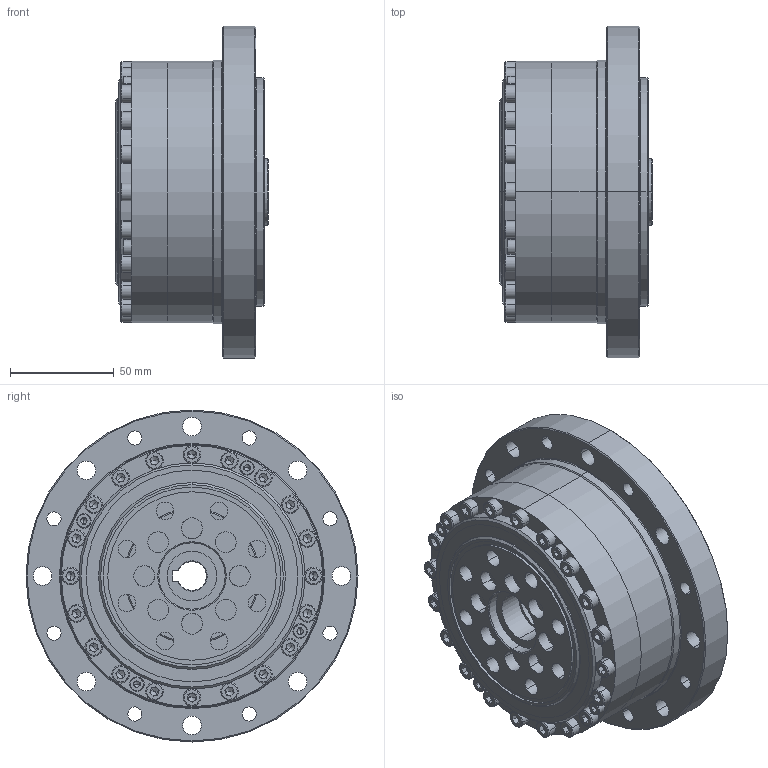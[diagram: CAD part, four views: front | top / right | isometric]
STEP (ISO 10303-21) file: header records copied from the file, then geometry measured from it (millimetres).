
FILE_DESCRIPTION (( 'STEP AP203' ), '1' );
FILE_NAME ('LCS-40-XXX-C-II.STEP', '2017-04-13T07:00:37', ( 'Windows 蚚誧' ), ( 'Users' ), 'SwSTEP 2.0', 'SolidWorks 2013', '' );
FILE_SCHEMA (( 'CONFIG_CONTROL_DESIGN' ));
Length unit declared in the file: millimetre
Products named in the file (18): DB-40-II; LCS-40-XXX-P05-II; 粣噤32; LCS-40-XXX-P04-II; RZC-40内外圈+钢球; 15Z-901026; RZC-40悵厥殤; socket head cap screw_din_内六角圆柱头螺钉M4 x 16; 柔性轴承RZC-40; socket head cap screw_din_内六角圆柱头螺钉M5 x 25; 疏楷汜ん40-II; LJ-40G-II; 内六角圆柱头螺钉M12 x 25_DIN 912 M12 x 25 --- 25N; SZ-40-II; LCS-40-XXX-P01-II; LCS-40-XXX-C-II; LCS-40-XXX-P03-II; LCS-40-XXX-P02-II
Assembly tree (46 placements, depth 4):
  LCS-40-XXX-C-II
    LCS-40-XXX-P01-II
    LCS-40-XXX-P02-II
    LCS-40-XXX-P05-II
    LCS-40-XXX-P04-II
    15Z-901026
    socket head cap screw_din_内六角圆柱头螺钉M4 x 16  x4
    socket head cap screw_din_内六角圆柱头螺钉M5 x 25  x20
    疏楷汜ん40-II
      LJ-40G-II
      SZ-40-II
      LCS-40-XXX-P03-II
      DB-40-II
      粣噤32
      柔性轴承RZC-40
        RZC-40内外圈+钢球
        RZC-40悵厥殤
    内六角圆柱头螺钉M12 x 25_DIN 912 M12 x 25 --- 25N  x8
Bounding box: 73.5 x 160 x 160 mm (x, y, z)
Volume: 686552.9 mm3; surface area: 308052.1 mm2
Topology: 69 solids, 69 shells, 1632 faces, 3834 edges, 2311 vertices
Faces by surface type: plane 638, cylinder 533, cone 247, torus 168, sphere 46
Entity records: 27991 total; most frequent: DIRECTION 4951, CARTESIAN_POINT 4284, ORIENTED_EDGE 3982, AXIS2_PLACEMENT_3D 2096, EDGE_CURVE 1991, VERTEX_POINT 1285, CIRCLE 1196, EDGE_LOOP 1086
